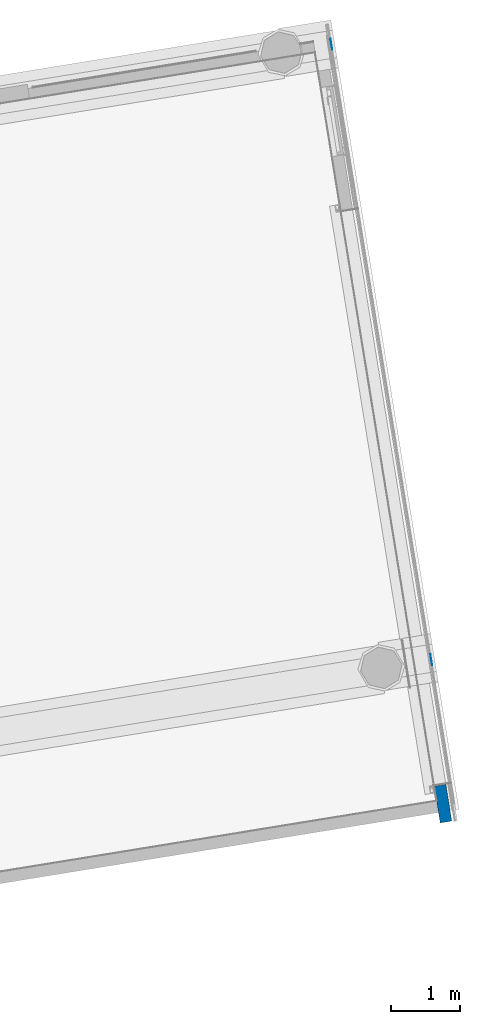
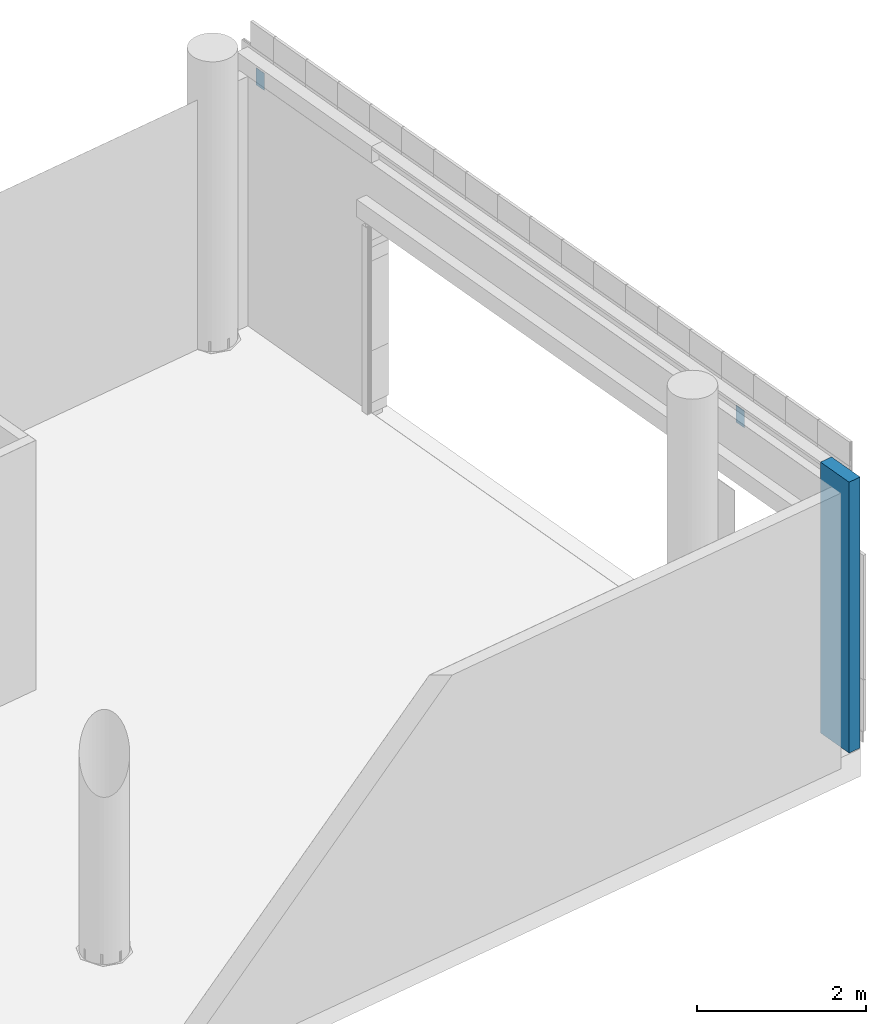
# One storey, part 17 of 38: 3 walls.
"""IFC2X3 building model written with IfcOpenShell, lengths in millimetres."""

import ifcopenshell
import ifcopenshell.guid

model = None  # the IFC model being written
_history = None  # IfcOwnerHistory: only IFC2X3 demands one
_inside = {}  # id of a spatial element -> (the spatial element, [elements in it])
_under = {}  # id of a project, library or spatial element -> (it, [spatial elements below it])
_declared = {}  # id of a project -> (the project, [libraries it declares])
_typed = {}  # id of a type object -> (the type object, [elements of that type])
_made_of = {}  # id of a material, layer set ... -> (it, [elements and type objects made of it])


def new_model(schema):
    """Start an empty IFC model of exactly this schema.

    Asked for "IFC4X3", IfcOpenShell would pick the latest addendum, in which some entities
    have other attributes; the version numbers below select the first issue.
    IFC2X3 requires an IfcOwnerHistory on every rooted entity: one is made here for all.
    """
    global model, _history
    if schema == "IFC4X3":
        model = ifcopenshell.file(schema_version=(4, 3, 0, 0))
    else:
        model = ifcopenshell.file(schema=schema)
    _inside.clear()
    _under.clear()
    _declared.clear()
    _typed.clear()
    _made_of.clear()
    _history = None
    if model.schema == "IFC2X3":
        org = make("IfcOrganization", Name="unknown")
        user = make(
            "IfcPersonAndOrganization",
            ThePerson=make("IfcPerson", FamilyName="unknown"),
            TheOrganization=org,
        )
        app = make(
            "IfcApplication",
            ApplicationDeveloper=org,
            Version="unknown",
            ApplicationFullName="unknown",
            ApplicationIdentifier="unknown",
        )
        _history = make(
            "IfcOwnerHistory",
            OwningUser=user,
            OwningApplication=app,
            ChangeAction="ADDED",
            CreationDate=0,
        )
    return model


def make(cls, **values):
    """One entity of the class cls with the attributes given. An attribute that is None is left unset."""
    return model.create_entity(
        cls, **{name: value for name, value in values.items() if value is not None}
    )


def entity(cls, *values):
    """Any entity or typed value of the class cls, its attributes in the order of the schema. None: left unset."""
    e = model.create_entity(cls)
    for i, value in enumerate(values):
        if value is not None:
            e[i] = value
    return e


def rooted(cls, **values):
    """An entity with a GlobalId (a new one), such as an element, a storey or a relation."""
    return make(cls, GlobalId=ifcopenshell.guid.new(), OwnerHistory=_history, **values)


def si_unit(unit_type, name, prefix=None):
    """IfcSIUnit, for example si_unit("LENGTHUNIT", "METRE", prefix="MILLI")."""
    return make("IfcSIUnit", UnitType=unit_type, Prefix=prefix, Name=name)


def converted_unit(unit_type, name, factor, base, dimensions=None, offset=None):
    """IfcConversionBasedUnit, such as the inch: factor (a typed value) times the base unit."""
    return make(
        "IfcConversionBasedUnit"
        if offset is None
        else "IfcConversionBasedUnitWithOffset",
        ConversionOffset=offset,
        Dimensions=None
        if dimensions is None
        else entity("IfcDimensionalExponents", *dimensions),
        UnitType=unit_type,
        Name=name,
        ConversionFactor=make(
            "IfcMeasureWithUnit", ValueComponent=factor, UnitComponent=base
        ),
    )


def derived_unit(unit_type, elements):
    """IfcDerivedUnit: a product of units, each with its exponent."""
    return make(
        "IfcDerivedUnit",
        Elements=[
            make("IfcDerivedUnitElement", Unit=unit, Exponent=power)
            for unit, power in elements
        ],
        UnitType=unit_type,
    )


def assignment(units):
    """IfcUnitAssignment: the units of a project."""
    return None if units is None else make("IfcUnitAssignment", Units=units)


def point(xyz):
    """IfcCartesianPoint."""
    return None if xyz is None else make("IfcCartesianPoint", Coordinates=xyz)


def direction(xyz):
    """IfcDirection."""
    return None if xyz is None else make("IfcDirection", DirectionRatios=xyz)


def frame(location, z_axis=None, x_axis=None):
    """IfcAxis2Placement3D, a coordinate frame: its origin and axes. An axis left out is left unset."""
    return make(
        "IfcAxis2Placement3D",
        Location=point(location),
        Axis=direction(z_axis),
        RefDirection=direction(x_axis),
    )


def frame_2d(location, x_axis=None):
    """IfcAxis2Placement2D, a coordinate frame in the plane: its origin and x axis."""
    return make(
        "IfcAxis2Placement2D", Location=point(location), RefDirection=direction(x_axis)
    )


def origin():
    """The frame at (0, 0, 0) with its axes left unset."""
    return frame((0.0, 0.0, 0.0))


def origin_with_axes():
    """The frame at (0, 0, 0) with the z axis (0, 0, 1) and the x axis (1, 0, 0) written out."""
    return frame((0.0, 0.0, 0.0), z_axis=(0.0, 0.0, 1.0), x_axis=(1.0, 0.0, 0.0))


def place(relative_to, where):
    """IfcLocalPlacement: puts the frame where relative to a parent placement (None: the world)."""
    return make(
        "IfcLocalPlacement", PlacementRelTo=relative_to, RelativePlacement=where
    )


def context(
    kind, dimensions, precision=None, world=None, true_north=None, identifier=None
):
    """IfcGeometricRepresentationContext, for example the 3D "Model" context."""
    return make(
        "IfcGeometricRepresentationContext",
        ContextIdentifier=identifier,
        ContextType=kind,
        CoordinateSpaceDimension=dimensions,
        Precision=precision,
        WorldCoordinateSystem=world,
        TrueNorth=true_north,
    )


def subcontext(parent, identifier, kind, view, scale=None):
    """IfcGeometricRepresentationSubContext, for example "Body" below "Model"."""
    return make(
        "IfcGeometricRepresentationSubContext",
        ContextIdentifier=identifier,
        ContextType=kind,
        ParentContext=parent,
        TargetScale=scale,
        TargetView=view,
    )


def project(units=None, contexts=None):
    """IfcProject with its units and contexts."""
    return rooted(
        "IfcProject",
        Name="project",
        RepresentationContexts=contexts,
        UnitsInContext=assignment(units),
    )


def spatial(cls, under=None, at=None, **own):
    """A site, building, storey or space (cls), placed at a placement, below another one or the project."""
    s = rooted(cls, ObjectPlacement=at, **own)
    if under is not None:
        _under.setdefault(under.id(), (under, []))[1].append(s)
    return s


def profile(cls, at=None, kind="AREA", **sizes):
    """A parametric profile (cls). Its sizes go by their IFC names, for example OverallWidth=200.0."""
    return make(cls, ProfileType=kind, Position=at, **sizes)


def rectangle(**sizes):
    """IfcRectangleProfileDef."""
    return profile("IfcRectangleProfileDef", **sizes)


def extrude(swept, where, along, depth):
    """IfcExtrudedAreaSolid: the profile swept, set in the frame where, extruded along a direction by depth."""
    return make(
        "IfcExtrudedAreaSolid",
        SweptArea=swept,
        Position=where,
        ExtrudedDirection=direction(along),
        Depth=depth,
    )


def shape(context_of_items, identifier, shape_type, items):
    """IfcShapeRepresentation: the items that make up one representation, for example the "Body"."""
    return make(
        "IfcShapeRepresentation",
        ContextOfItems=context_of_items,
        RepresentationIdentifier=identifier,
        RepresentationType=shape_type,
        Items=items,
    )


def material(Name=None, Category=None):
    """IfcMaterial."""
    return make("IfcMaterial", Name=Name, Category=Category)


def layer(
    of_material, thickness, ventilated=None, Name=None, Category=None, Priority=None
):
    """IfcMaterialLayer: one layer of a wall or slab, of a material (None: an air gap)."""
    return make(
        "IfcMaterialLayer",
        Material=of_material,
        LayerThickness=thickness,
        IsVentilated=ventilated,
        Name=Name,
        Category=Category,
        Priority=Priority,
    )


def layer_set(layers, Name=None):
    """IfcMaterialLayerSet."""
    return make("IfcMaterialLayerSet", MaterialLayers=layers, LayerSetName=Name)


def layer_usage(for_layer_set, set_direction, sense, offset, extent=None):
    """IfcMaterialLayerSetUsage: how a layer set lies in its element."""
    return make(
        "IfcMaterialLayerSetUsage",
        ForLayerSet=for_layer_set,
        LayerSetDirection=set_direction,
        DirectionSense=sense,
        OffsetFromReferenceLine=offset,
        ReferenceExtent=extent,
    )


def made_of(thing, what):
    """Note that an element or type object is made of a material, layer set ...; save() writes the relation."""
    if what is not None:
        _made_of.setdefault(what.id(), (what, []))[1].append(thing)
    return thing


def type_object(cls, material=None, **own):
    """A type object (cls), such as IfcWallType, which elements share."""
    return made_of(rooted(cls, **own), material)


def element(
    cls,
    number,
    at=None,
    inside=None,
    cuts=None,
    type_object=None,
    material=None,
    context=None,
    identifier="Body",
    shape_type=None,
    held_by="IfcProductDefinitionShape",
    body=None,
    shapes=None,
    **own,
):
    """One element of the class cls, such as IfcWall. Its Tag is "e" and its number.

    at: its placement. inside: the storey or other place that contains it. cuts: it is an
    opening in that element (IfcRelVoidsElement). A single representation is given by context,
    identifier, shape_type and body (its items); several are given by shapes. held_by: the class
    of the entity that holds the representations. save() writes the other relations.
    """
    e = rooted(cls, Tag="e%d" % number, ObjectPlacement=at, **own)
    if body is not None:
        shapes = [shape(context, identifier, shape_type, body)]
    if shapes is not None:
        e.Representation = make(held_by, Representations=shapes)
    if inside is not None:
        _inside.setdefault(inside.id(), (inside, []))[1].append(e)
    if cuts is not None:
        rooted(
            "IfcRelVoidsElement", RelatingBuildingElement=cuts, RelatedOpeningElement=e
        )
    if type_object is not None:
        _typed.setdefault(type_object.id(), (type_object, []))[1].append(e)
    return made_of(e, material)


def aggregate(whole, parts):
    """IfcRelAggregates: a whole, such as a stair, and the parts it consists of."""
    return rooted("IfcRelAggregates", RelatingObject=whole, RelatedObjects=parts)


def save(model, path):
    """Write the relations noted so far, then the file.

    IfcRelAggregates (storeys below a building ...), IfcRelContainedInSpatialStructure (elements
    in a storey), IfcRelDefinesByType, IfcRelAssociatesMaterial and IfcRelDeclares: one each for
    every whole, place, type object, material and project.
    """
    for whole, parts in _under.values():
        aggregate(whole, parts)
    for where, things in _inside.values():
        rooted(
            "IfcRelContainedInSpatialStructure",
            RelatedElements=things,
            RelatingStructure=where,
        )
    for kind, things in _typed.values():
        rooted("IfcRelDefinesByType", RelatedObjects=things, RelatingType=kind)
    for what, things in _made_of.values():
        rooted("IfcRelAssociatesMaterial", RelatedObjects=things, RelatingMaterial=what)
    for by, libraries in _declared.values():
        rooted("IfcRelDeclares", RelatingContext=by, RelatedDefinitions=libraries)
    model.write(path)


model = new_model("IFC2X3")

# Units and contexts
model_context = context("Model", 3, precision=0.01, world=origin(), true_north=direction((6.12323399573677e-17, 1.0)))
plan_context = context("Plan", 3, precision=1e-05, world=origin_with_axes())
body_context = subcontext(model_context, "Body", "Model", "MODEL_VIEW")
ifc_project = project(units=[converted_unit("PLANEANGLEUNIT", "DEGREE", entity("IfcPositiveLengthMeasure", 0.0174532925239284), si_unit("PLANEANGLEUNIT", "RADIAN"), dimensions=[0, 0, 0, 0, 0, 0, 0]), si_unit("AREAUNIT", "SQUARE_METRE"), si_unit("LENGTHUNIT", "METRE", prefix="MILLI"), si_unit("MASSUNIT", "GRAM", prefix="KILO"), si_unit("POWERUNIT", "WATT"), si_unit("PRESSUREUNIT", "PASCAL", prefix="KILO"), si_unit("FORCEUNIT", "NEWTON", prefix="KILO"), si_unit("ELECTRICVOLTAGEUNIT", "VOLT"), si_unit("ELECTRICCURRENTUNIT", "AMPERE"), si_unit("THERMODYNAMICTEMPERATUREUNIT", "DEGREE_CELSIUS"), si_unit("TIMEUNIT", "SECOND"), si_unit("VOLUMEUNIT", "CUBIC_METRE"), derived_unit("LINEARVELOCITYUNIT", [(si_unit("LENGTHUNIT", "METRE"), 1), (si_unit("TIMEUNIT", "SECOND"), -1)]), derived_unit("VOLUMETRICFLOWRATEUNIT", [(si_unit("VOLUMEUNIT", "CUBIC_METRE"), 1), (si_unit("TIMEUNIT", "SECOND"), -1)]), derived_unit("THERMALTRANSMITTANCEUNIT", [(si_unit("POWERUNIT", "WATT"), 1), (si_unit("THERMODYNAMICTEMPERATUREUNIT", "KELVIN"), -1), (si_unit("AREAUNIT", "SQUARE_METRE"), -1)]), derived_unit("SOUNDPRESSUREUNIT", [(si_unit("PRESSUREUNIT", "PASCAL"), 1)])], contexts=[model_context, plan_context])

# Site, building, storey
site_placement = place(None, frame((-0.00071070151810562, 0.00438415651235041, 0.0), z_axis=(0.0, 0.0, 1.0), x_axis=(-0.160236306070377, 0.987078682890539, 0.0)))
site = spatial("IfcSite", under=ifc_project, at=site_placement, Name="Default", CompositionType="ELEMENT")
building_placement = place(site_placement, origin_with_axes())
building = spatial("IfcBuilding", under=site, at=building_placement, Name="TOO", CompositionType="ELEMENT")
storey_placement = place(building_placement, frame((0.0, 0.0, 50999.9999999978), z_axis=(0.0, 0.0, 1.0), x_axis=(1.0, 0.0, 0.0)))
storey = spatial("IfcBuildingStorey", under=building, at=storey_placement, Name="Nivå D-H01", CompositionType="ELEMENT", Elevation=50999.9999999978)

# Walls
ifc_material_1 = material(Name="A240 - Gipsplate")
ifc_layer_1 = layer(ifc_material_1, 12.5)
ifc_layer_2 = layer(ifc_material_1, 12.5)
ifc_material_2 = material(Name="A200 - Isolasjon - Rock Wool")
ifc_layer_3 = layer(ifc_material_2, 120.0)
ifc_layer_4 = layer(ifc_material_1, 12.5)
ifc_layer_5 = layer(ifc_material_1, 12.5)
ifc_layer_set_1 = layer_set([ifc_layer_1, ifc_layer_2, ifc_layer_3, ifc_layer_4, ifc_layer_5], Name="Basic Wall:A242 - GG120/100GG")
ifc_layer_usage_1 = layer_usage(ifc_layer_set_1, "AXIS2", "NEGATIVE", 85.0)
wall_type_1 = type_object("IfcWallType", Name="Basic Wall:A242 - GG120/100GG", PredefinedType="STANDARD", material=ifc_layer_set_1)
wall_1_placement = place(storey_placement, frame((768530.528488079, -604067.480498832, -70.0), z_axis=(0.0, 0.0, 1.0), x_axis=(1.0, 0.0, 0.0)))
element("IfcWallStandardCase", 1, at=wall_1_placement, inside=storey, type_object=wall_type_1, material=ifc_layer_usage_1, Name="Basic Wall:A242 - GG120/100GG", ObjectType="Basic Wall:A242 - GG120/100GG", context=body_context, shape_type="SweptSolid", body=[
    extrude(rectangle(XDim=537.091155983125, YDim=169.999999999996, at=frame_2d((268.545577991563, 0.0), x_axis=(-1.0, 0.0))), origin(), (0.0, 0.0, 1.0), 3920.00000000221),
])
ifc_material_3 = material(Name="A200 - Metall - Stål")
ifc_layer_6 = layer(ifc_material_3, 3.0)
ifc_layer_set_2 = layer_set([ifc_layer_6], Name="Basic Wall:3mm RF-stål")
ifc_layer_usage_2 = layer_usage(ifc_layer_set_2, "AXIS2", "NEGATIVE", 1.5)
wall_type_2 = type_object("IfcWallType", Name="Basic Wall:3mm RF-stål", PredefinedType="STANDARD", material=ifc_layer_set_2)
wall_2_placement = place(storey_placement, frame((770797.619644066, -604233.980498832, 3293.0), z_axis=(0.0, 0.0, 1.0), x_axis=(1.0, 0.0, 0.0)))
element("IfcWallStandardCase", 2, at=wall_2_placement, inside=storey, type_object=wall_type_2, material=ifc_layer_usage_2, Name="Basic Wall:3mm RF-stål", ObjectType="Basic Wall:3mm RF-stål", context=body_context, shape_type="SweptSolid", body=[
    extrude(rectangle(XDim=160.000000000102, YDim=3.0000000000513, at=frame_2d((80.0000000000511, 0.0), x_axis=(-1.0, 0.0))), origin(), (0.0, 0.0, 1.0), 250.000000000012),
])
ifc_layer_usage_3 = layer_usage(ifc_layer_set_2, "AXIS2", "NEGATIVE", 1.5)
wall_3_placement = place(storey_placement, frame((779797.619644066, -604233.980498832, 3293.0), z_axis=(0.0, 0.0, 1.0), x_axis=(1.0, 0.0, 0.0)))
element("IfcWallStandardCase", 3, at=wall_3_placement, inside=storey, type_object=wall_type_2, material=ifc_layer_usage_3, Name="Basic Wall:3mm RF-stål", ObjectType="Basic Wall:3mm RF-stål", context=body_context, shape_type="SweptSolid", body=[
    extrude(rectangle(XDim=160.000000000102, YDim=3.0000000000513, at=frame_2d((80.0000000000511, 0.0), x_axis=(-1.0, 0.0))), origin(), (0.0, 0.0, 1.0), 250.000000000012),
])

save(model, "model.ifc")
